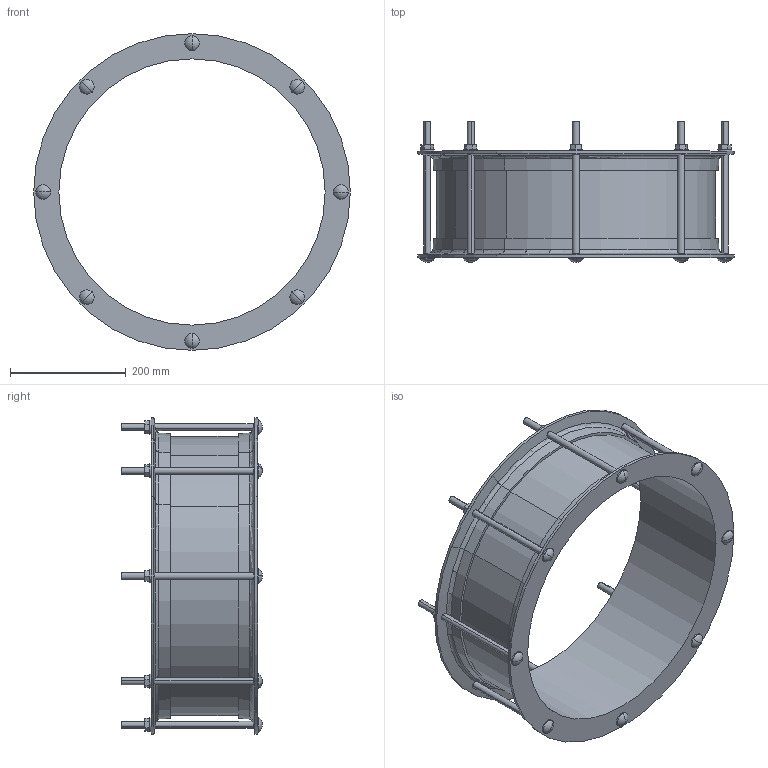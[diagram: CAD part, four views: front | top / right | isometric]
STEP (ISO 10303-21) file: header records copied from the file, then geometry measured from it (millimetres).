
FILE_DESCRIPTION((''),'2;1');
FILE_NAME('LO2_COUP_457','2018-12-06T',('mfairey'),('Glynwed Pipe Systems'),'CREO PARAMETRIC BY PTC INC, 2016130','CREO PARAMETRIC BY PTC INC, 2016130','');
FILE_SCHEMA(('CONFIG_CONTROL_DESIGN'));
Length unit declared in the file: millimetre
Products named in the file (1): LO2_COUP_457
Bounding box: 547.7 x 243.33 x 547.7 mm (x, y, z)
Volume: 4417774.4 mm3; surface area: 842985.8 mm2
Topology: 1 solids, 1 shells, 176 faces, 464 edges, 292 vertices
Faces by surface type: plane 76, cylinder 72, sphere 16, cone 8, torus 4
Entity records: 6078 total; most frequent: CARTESIAN_POINT 1716, DIRECTION 896, ORIENTED_EDGE 896, EDGE_CURVE 448, AXIS2_PLACEMENT_3D 336, VERTEX_POINT 292, VECTOR 224, LINE 224
